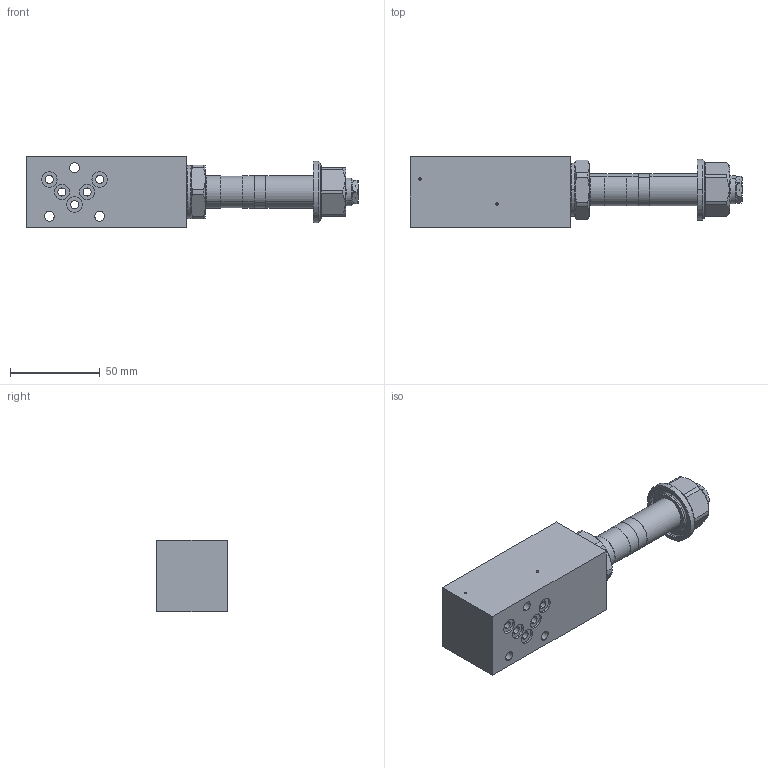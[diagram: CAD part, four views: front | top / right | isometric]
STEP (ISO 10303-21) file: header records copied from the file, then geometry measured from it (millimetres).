
FILE_DESCRIPTION (( 'STEP AP214' ), '1' );
FILE_NAME ('B.BSA04-B.STEP', '2017-03-23T15:00:41', ( '' ), ( '' ), 'SwSTEP 2.0', 'SolidWorks 2016', '' );
FILE_SCHEMA (( 'AUTOMOTIVE_DESIGN' ));
Length unit declared in the file: millimetre
Products named in the file (1): B.BSA04-B
Bounding box: 184.8 x 39.5 x 40 mm (x, y, z)
Volume: 170570.8 mm3; surface area: 32731.2 mm2
Topology: 2 solids, 4 shells, 267 faces, 646 edges, 411 vertices
Faces by surface type: cylinder 91, plane 74, cone 70, torus 22, bspline 6, sphere 4
Entity records: 11160 total; most frequent: CARTESIAN_POINT 1899, DIRECTION 1404, ORIENTED_EDGE 1284, EDGE_CURVE 642, AXIS2_PLACEMENT_3D 592, VERTEX_POINT 411, CIRCLE 330, EDGE_LOOP 317
